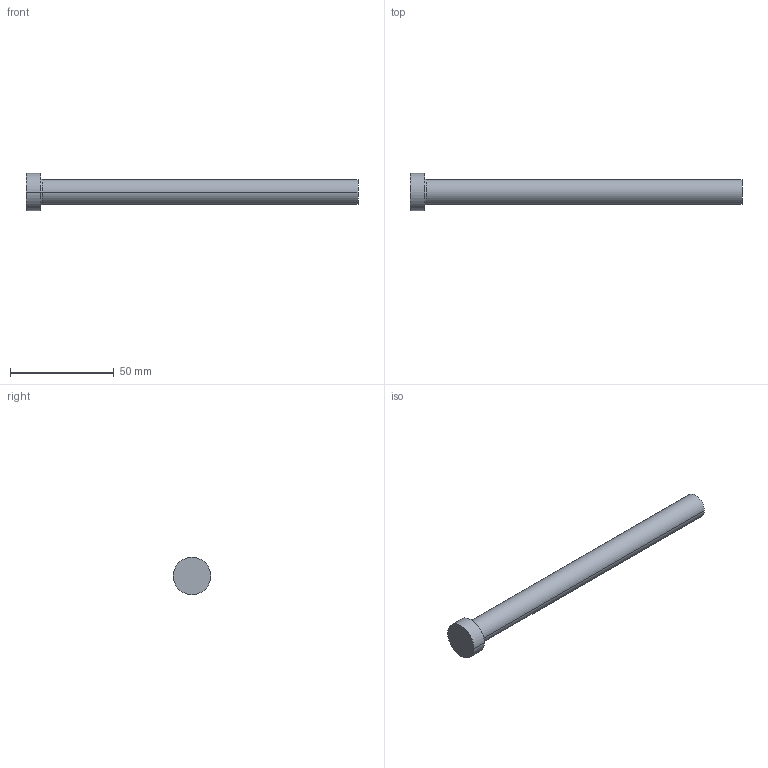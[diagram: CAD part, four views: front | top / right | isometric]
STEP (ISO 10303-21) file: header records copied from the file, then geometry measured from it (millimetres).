
FILE_DESCRIPTION (( 'STEP AP214' ), '1' );
FILE_NAME ('A-12x160.STEP', '2020-05-29T16:13:03', ( 'August' ), ( '' ), 'SwSTEP 2.0', 'SolidWorks 2018', '' );
FILE_SCHEMA (( 'AUTOMOTIVE_DESIGN' ));
Length unit declared in the file: millimetre
Products named in the file (1): A-12x160
Bounding box: 160 x 18 x 18 mm (x, y, z)
Volume: 19090.5 mm3; surface area: 6660.1 mm2
Topology: 1 solids, 1 shells, 9 faces, 16 edges, 10 vertices
Faces by surface type: cylinder 4, plane 3, torus 2
Entity records: 260 total; most frequent: DIRECTION 48, CARTESIAN_POINT 36, ORIENTED_EDGE 32, AXIS2_PLACEMENT_3D 22, EDGE_CURVE 16, CIRCLE 12, VERTEX_POINT 10, EDGE_LOOP 10
